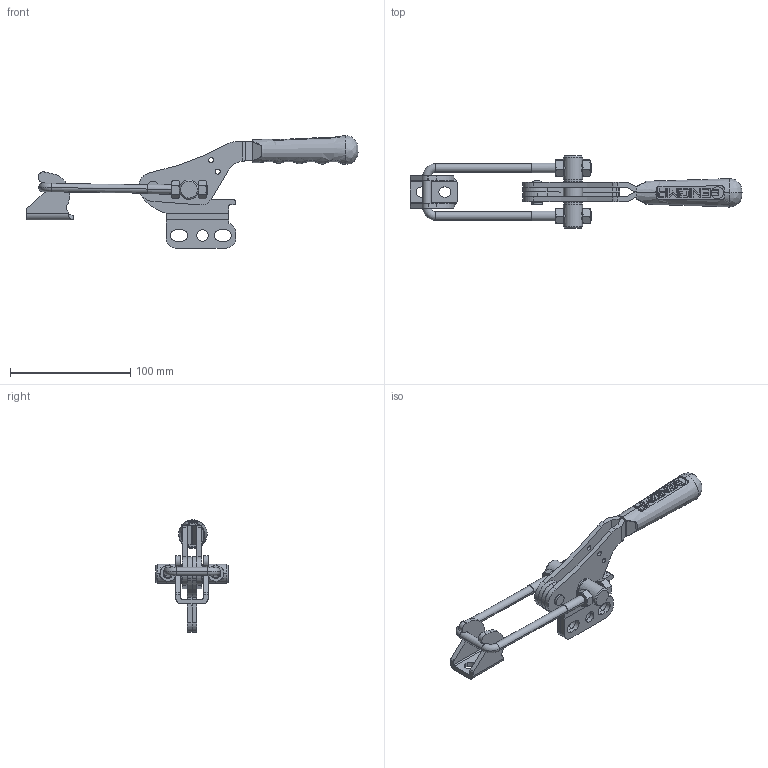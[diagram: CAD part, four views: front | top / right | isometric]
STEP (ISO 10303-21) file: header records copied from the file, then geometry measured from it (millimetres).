
FILE_DESCRIPTION (( 'STEP AP203' ), '1' );
FILE_NAME ('13008_D_K.STEP', '2022-12-02T10:19:45', ( '' ), ( '' ), 'SwSTEP 2.0', 'SolidWorks 2023', '' );
FILE_SCHEMA (( 'CONFIG_CONTROL_DESIGN' ));
Length unit declared in the file: millimetre
Products named in the file (11): 13008_D_K; M8_M10_KK; 13108_OTOMAT_Varsay_X2_0131_X0_lan; C90_Yeni_Tutamak_Varsay_X2_0131_X0_lan; Mirror2022_13108_13110_Y_G_X2_00d6_X0_VDE; M8 Somun; M8x50_U_KANCA_Varsayılan; 2022_13108_13110_Y_G_X2_00d6_X0_VDE; 13008_H.KOLU_01.12.2022_Varsay_X2_0131_X0_lan; Mirror13008_H.KOLU_01.12.2022_Varsay_X2_0131_X0_lan; _X2_00d8_X0_6x18_P(PER_X2_00c70130_X0_N)_Varsay_X2_0131_X0_lan
Assembly tree (13 placements, depth 2):
  13008_D_K
    2022_13108_13110_Y_G_X2_00d6_X0_VDE
    13108_OTOMAT_Varsay_X2_0131_X0_lan
    Mirror2022_13108_13110_Y_G_X2_00d6_X0_VDE
    M8_M10_KK
    _X2_00d8_X0_6x18_P(PER_X2_00c70130_X0_N)_Varsay_X2_0131_X0_lan
    M8 Somun  x4
    C90_Yeni_Tutamak_Varsay_X2_0131_X0_lan
    13008_H.KOLU_01.12.2022_Varsay_X2_0131_X0_lan
    Mirror13008_H.KOLU_01.12.2022_Varsay_X2_0131_X0_lan
    M8x50_U_KANCA_Varsayılan
Bounding box: 276.54 x 60 x 93.53 mm (x, y, z)
Volume: 107666.2 mm3; surface area: 61975.5 mm2
Topology: 13 solids, 13 shells, 607 faces, 1615 edges, 1047 vertices
Faces by surface type: plane 288, cylinder 211, cone 54, bspline 50, torus 4
Entity records: 30893 total; most frequent: CARTESIAN_POINT 16841, ORIENTED_EDGE 2728, DIRECTION 2619, EDGE_CURVE 1364, AXIS2_PLACEMENT_3D 904, VERTEX_POINT 882, LINE 811, VECTOR 811
